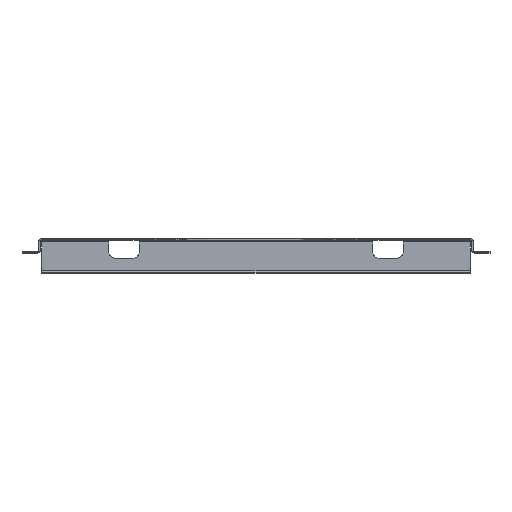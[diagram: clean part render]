
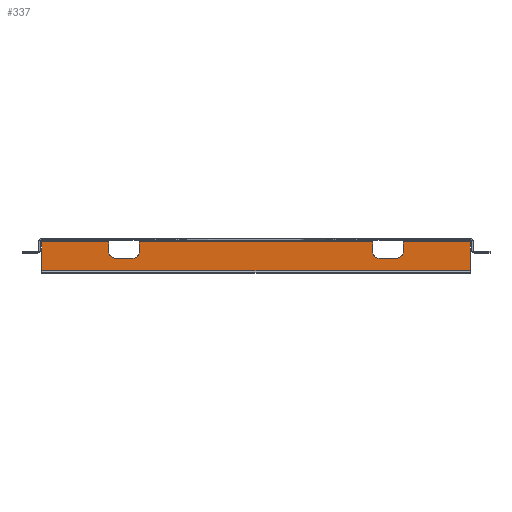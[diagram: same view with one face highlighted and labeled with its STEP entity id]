
A CAD part, top view. The second image highlights one B-rep face of the part: STEP entity #337.
In plain terms, the highlighted planar face has unit normal (0, 0, 1).
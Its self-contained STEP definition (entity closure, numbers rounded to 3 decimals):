
#3 = VERTEX_POINT ( 'NONE', #2718 ) ;
#37 = ORIENTED_EDGE ( 'NONE', *, *, #887, .T. ) ;
#46 = CARTESIAN_POINT ( 'NONE',  ( -145., -2.9, -108.6 ) ) ;
#85 = CARTESIAN_POINT ( 'NONE',  ( 115., -2.9, -108.6 ) ) ;
#143 = EDGE_CURVE ( 'NONE', #2542, #2397, #537, .T. ) ;
#157 = VERTEX_POINT ( 'NONE', #3058 ) ;
#171 = VECTOR ( 'NONE', #1098, 1000. ) ;
#201 = EDGE_CURVE ( 'NONE', #2045, #3021, #1933, .T. ) ;
#243 = CARTESIAN_POINT ( 'NONE',  ( -115., -1.4, -108.6 ) ) ;
#245 = ORIENTED_EDGE ( 'NONE', *, *, #1740, .F. ) ;
#280 = AXIS2_PLACEMENT_3D ( 'NONE', #322, #1799, #792 ) ;
#285 = DIRECTION ( 'NONE',  ( 0., 1., 0. ) ) ;
#314 = VERTEX_POINT ( 'NONE', #1869 ) ;
#322 = CARTESIAN_POINT ( 'NONE',  ( -138.75, -12.75, -108.6 ) ) ;
#337 = ADVANCED_FACE ( 'NONE', ( #3097 ), #2344, .F. ) ;
#386 = AXIS2_PLACEMENT_3D ( 'NONE', #426, #2194, #2441 ) ;
#411 = VERTEX_POINT ( 'NONE', #2903 ) ;
#420 = CARTESIAN_POINT ( 'NONE',  ( -211.1, -2.9, -108.6 ) ) ;
#426 = CARTESIAN_POINT ( 'NONE',  ( 138.75, -12.75, -108.6 ) ) ;
#427 = DIRECTION ( 'NONE',  ( 0., 1., 0. ) ) ;
#443 = VECTOR ( 'NONE', #1465, 1000. ) ;
#447 = LINE ( 'NONE', #1129, #2572 ) ;
#537 = CIRCLE ( 'NONE', #684, 6.25 ) ;
#543 = EDGE_CURVE ( 'NONE', #2397, #2255, #2085, .T. ) ;
#544 = ORIENTED_EDGE ( 'NONE', *, *, #2448, .T. ) ;
#602 = DIRECTION ( 'NONE',  ( 0., 1., 0. ) ) ;
#651 = ORIENTED_EDGE ( 'NONE', *, *, #3069, .F. ) ;
#676 = ORIENTED_EDGE ( 'NONE', *, *, #3222, .T. ) ;
#679 = LINE ( 'NONE', #2198, #2147 ) ;
#683 = CARTESIAN_POINT ( 'NONE',  ( 211.1, -31.1, -108.6 ) ) ;
#684 = AXIS2_PLACEMENT_3D ( 'NONE', #1824, #2048, #285 ) ;
#714 = VECTOR ( 'NONE', #3224, 1000. ) ;
#732 = DIRECTION ( 'NONE',  ( 1., 0., 0. ) ) ;
#792 = DIRECTION ( 'NONE',  ( 0., 1., 0. ) ) ;
#837 = VERTEX_POINT ( 'NONE', #1028 ) ;
#844 = EDGE_CURVE ( 'NONE', #1612, #3, #1976, .T. ) ;
#875 = CARTESIAN_POINT ( 'NONE',  ( -138.75, -19., -108.6 ) ) ;
#887 = EDGE_CURVE ( 'NONE', #2935, #157, #2005, .T. ) ;
#959 = DIRECTION ( 'NONE',  ( 0., -1., 0. ) ) ;
#979 = VERTEX_POINT ( 'NONE', #46 ) ;
#990 = VERTEX_POINT ( 'NONE', #875 ) ;
#1028 = CARTESIAN_POINT ( 'NONE',  ( -145., -12.75, -108.6 ) ) ;
#1076 = DIRECTION ( 'NONE',  ( 0., 0., -1. ) ) ;
#1098 = DIRECTION ( 'NONE',  ( 1., 0., 0. ) ) ;
#1129 = CARTESIAN_POINT ( 'NONE',  ( -145., -1.4, -108.6 ) ) ;
#1142 = CARTESIAN_POINT ( 'NONE',  ( -211.1, -2.9, -108.6 ) ) ;
#1143 = VECTOR ( 'NONE', #1924, 1000. ) ;
#1186 = VECTOR ( 'NONE', #3235, 1000. ) ;
#1191 = CARTESIAN_POINT ( 'NONE',  ( 145., -12.75, -108.6 ) ) ;
#1256 = CARTESIAN_POINT ( 'NONE',  ( 211.1, -19., -108.6 ) ) ;
#1268 = DIRECTION ( 'NONE',  ( 0., 1., 0. ) ) ;
#1420 = LINE ( 'NONE', #2731, #1906 ) ;
#1465 = DIRECTION ( 'NONE',  ( 0., -1., 0. ) ) ;
#1480 = CARTESIAN_POINT ( 'NONE',  ( 121.25, -19., -108.6 ) ) ;
#1487 = ORIENTED_EDGE ( 'NONE', *, *, #143, .T. ) ;
#1512 = LINE ( 'NONE', #1142, #171 ) ;
#1580 = CARTESIAN_POINT ( 'NONE',  ( 211.1, -1.4, -108.6 ) ) ;
#1607 = ORIENTED_EDGE ( 'NONE', *, *, #2177, .F. ) ;
#1612 = VERTEX_POINT ( 'NONE', #1873 ) ;
#1615 = LINE ( 'NONE', #3068, #1658 ) ;
#1624 = ORIENTED_EDGE ( 'NONE', *, *, #2458, .F. ) ;
#1658 = VECTOR ( 'NONE', #1268, 1000. ) ;
#1740 = EDGE_CURVE ( 'NONE', #411, #979, #1512, .T. ) ;
#1761 = VECTOR ( 'NONE', #2978, 1000. ) ;
#1794 = EDGE_CURVE ( 'NONE', #837, #979, #447, .T. ) ;
#1799 = DIRECTION ( 'NONE',  ( 0., 0., -1. ) ) ;
#1824 = CARTESIAN_POINT ( 'NONE',  ( 121.25, -12.75, -108.6 ) ) ;
#1851 = CARTESIAN_POINT ( 'NONE',  ( 211.1, -19., -108.6 ) ) ;
#1869 = CARTESIAN_POINT ( 'NONE',  ( -115., -2.9, -108.6 ) ) ;
#1873 = CARTESIAN_POINT ( 'NONE',  ( 211.1, -31.1, -108.6 ) ) ;
#1906 = VECTOR ( 'NONE', #732, 1000. ) ;
#1924 = DIRECTION ( 'NONE',  ( 1., 0., 0. ) ) ;
#1933 = CIRCLE ( 'NONE', #2769, 6.25 ) ;
#1936 = ORIENTED_EDGE ( 'NONE', *, *, #543, .T. ) ;
#1969 = EDGE_CURVE ( 'NONE', #314, #2045, #2219, .T. ) ;
#1976 = LINE ( 'NONE', #683, #1761 ) ;
#1986 = ORIENTED_EDGE ( 'NONE', *, *, #844, .F. ) ;
#1991 = LINE ( 'NONE', #420, #2726 ) ;
#1998 = DIRECTION ( 'NONE',  ( 0., 1., 0. ) ) ;
#2005 = CIRCLE ( 'NONE', #386, 6.25 ) ;
#2032 = EDGE_CURVE ( 'NONE', #411, #3, #2264, .T. ) ;
#2045 = VERTEX_POINT ( 'NONE', #3009 ) ;
#2048 = DIRECTION ( 'NONE',  ( 0., 0., -1. ) ) ;
#2085 = LINE ( 'NONE', #2213, #2660 ) ;
#2116 = CARTESIAN_POINT ( 'NONE',  ( 145., -2.9, -108.6 ) ) ;
#2145 = CARTESIAN_POINT ( 'NONE',  ( -121.25, -12.75, -108.6 ) ) ;
#2147 = VECTOR ( 'NONE', #959, 1000. ) ;
#2169 = ORIENTED_EDGE ( 'NONE', *, *, #1794, .T. ) ;
#2177 = EDGE_CURVE ( 'NONE', #2542, #157, #2764, .T. ) ;
#2194 = DIRECTION ( 'NONE',  ( 0., 0., -1. ) ) ;
#2198 = CARTESIAN_POINT ( 'NONE',  ( 145., -1.4, -108.6 ) ) ;
#2206 = CARTESIAN_POINT ( 'NONE',  ( -121.25, -19., -108.6 ) ) ;
#2213 = CARTESIAN_POINT ( 'NONE',  ( 115., -1.4, -108.6 ) ) ;
#2219 = LINE ( 'NONE', #243, #1186 ) ;
#2255 = VERTEX_POINT ( 'NONE', #85 ) ;
#2256 = CARTESIAN_POINT ( 'NONE',  ( -211.1, -1.4, -108.6 ) ) ;
#2264 = LINE ( 'NONE', #2256, #443 ) ;
#2271 = AXIS2_PLACEMENT_3D ( 'NONE', #1580, #1076, #602 ) ;
#2288 = VERTEX_POINT ( 'NONE', #2576 ) ;
#2291 = ORIENTED_EDGE ( 'NONE', *, *, #2547, .F. ) ;
#2324 = VERTEX_POINT ( 'NONE', #2116 ) ;
#2344 = PLANE ( 'NONE',  #2271 ) ;
#2397 = VERTEX_POINT ( 'NONE', #2687 ) ;
#2441 = DIRECTION ( 'NONE',  ( 0., 1., 0. ) ) ;
#2448 = EDGE_CURVE ( 'NONE', #2324, #2935, #679, .T. ) ;
#2458 = EDGE_CURVE ( 'NONE', #2324, #2288, #1991, .T. ) ;
#2485 = DIRECTION ( 'NONE',  ( 1., 0., 0. ) ) ;
#2519 = ORIENTED_EDGE ( 'NONE', *, *, #1969, .T. ) ;
#2542 = VERTEX_POINT ( 'NONE', #1480 ) ;
#2547 = EDGE_CURVE ( 'NONE', #990, #3021, #3213, .T. ) ;
#2572 = VECTOR ( 'NONE', #2906, 1000. ) ;
#2576 = CARTESIAN_POINT ( 'NONE',  ( 211.1, -2.9, -108.6 ) ) ;
#2615 = EDGE_CURVE ( 'NONE', #990, #837, #2926, .T. ) ;
#2660 = VECTOR ( 'NONE', #1998, 1000. ) ;
#2668 = EDGE_LOOP ( 'NONE', ( #2291, #3074, #2169, #245, #2950, #1986, #676, #1624, #544, #37, #1607, #1487, #1936, #651, #2519, #3080 ) ) ;
#2687 = CARTESIAN_POINT ( 'NONE',  ( 115., -12.75, -108.6 ) ) ;
#2718 = CARTESIAN_POINT ( 'NONE',  ( -211.1, -31.1, -108.6 ) ) ;
#2726 = VECTOR ( 'NONE', #2485, 1000. ) ;
#2731 = CARTESIAN_POINT ( 'NONE',  ( -211.1, -2.9, -108.6 ) ) ;
#2764 = LINE ( 'NONE', #1851, #1143 ) ;
#2769 = AXIS2_PLACEMENT_3D ( 'NONE', #2145, #2948, #427 ) ;
#2903 = CARTESIAN_POINT ( 'NONE',  ( -211.1, -2.9, -108.6 ) ) ;
#2906 = DIRECTION ( 'NONE',  ( 0., 1., 0. ) ) ;
#2926 = CIRCLE ( 'NONE', #280, 6.25 ) ;
#2935 = VERTEX_POINT ( 'NONE', #1191 ) ;
#2948 = DIRECTION ( 'NONE',  ( 0., 0., -1. ) ) ;
#2950 = ORIENTED_EDGE ( 'NONE', *, *, #2032, .T. ) ;
#2978 = DIRECTION ( 'NONE',  ( -1., 0., 0. ) ) ;
#3009 = CARTESIAN_POINT ( 'NONE',  ( -115., -12.75, -108.6 ) ) ;
#3021 = VERTEX_POINT ( 'NONE', #2206 ) ;
#3058 = CARTESIAN_POINT ( 'NONE',  ( 138.75, -19., -108.6 ) ) ;
#3069 = EDGE_CURVE ( 'NONE', #314, #2255, #1420, .T. ) ;
#3068 = CARTESIAN_POINT ( 'NONE',  ( 211.1, -1.4, -108.6 ) ) ;
#3074 = ORIENTED_EDGE ( 'NONE', *, *, #2615, .T. ) ;
#3080 = ORIENTED_EDGE ( 'NONE', *, *, #201, .T. ) ;
#3097 = FACE_OUTER_BOUND ( 'NONE', #2668, .T. ) ;
#3213 = LINE ( 'NONE', #1256, #714 ) ;
#3222 = EDGE_CURVE ( 'NONE', #1612, #2288, #1615, .T. ) ;
#3224 = DIRECTION ( 'NONE',  ( 1., 0., 0. ) ) ;
#3235 = DIRECTION ( 'NONE',  ( 0., -1., 0. ) ) ;
